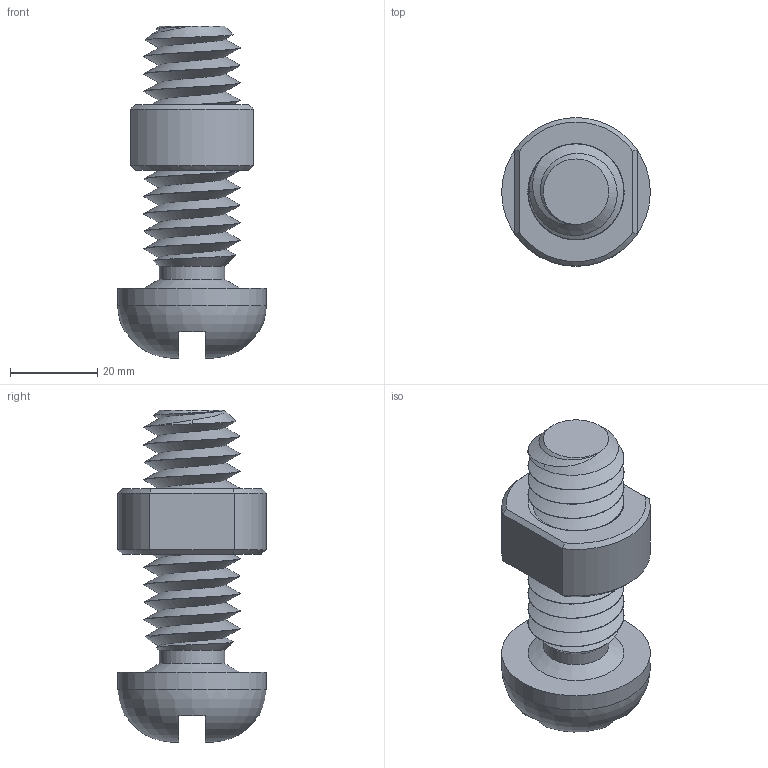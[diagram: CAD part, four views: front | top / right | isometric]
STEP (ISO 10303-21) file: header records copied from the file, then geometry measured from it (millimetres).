
FILE_DESCRIPTION(('STEP AP242'), '1');
FILE_NAME('栖闉罻', '', ('UNSPECIFIED'), ('UNSPECIFIED'), 'ASCON STEP Converter 1.6', 'ASCON Math Kernel', '');
FILE_SCHEMA(('AP242_MANAGED_MODEL_BASED_3D_ENGINEERING_MIM_LF { 1 0 10303 442 1 1 4 }'));
Length unit declared in the file: millimetre
Assembly tree (2 placements, depth 2):
  (unnamed)
    (unnamed)
    (unnamed)
Bounding box: 34 x 34 x 75.97 mm (x, y, z)
Volume: 34106.5 mm3; surface area: 13834.5 mm2
Topology: 2 solids, 2 shells, 66 faces, 169 edges, 109 vertices
Faces by surface type: cylinder 24, plane 23, cone 10, bspline 8, torus 1
Full cylindrical faces by diameter (mm): 15 x1, 34 x1
Entity records: 16495 total; most frequent: CARTESIAN_POINT 14401, ORIENTED_EDGE 318, DIRECTION 230, EDGE_CURVE 159, VERTEX_POINT 105, AXIS2_PLACEMENT_3D 89, B_SPLINE_CURVE_WITH_KNOTS 83, EDGE_LOOP 74
